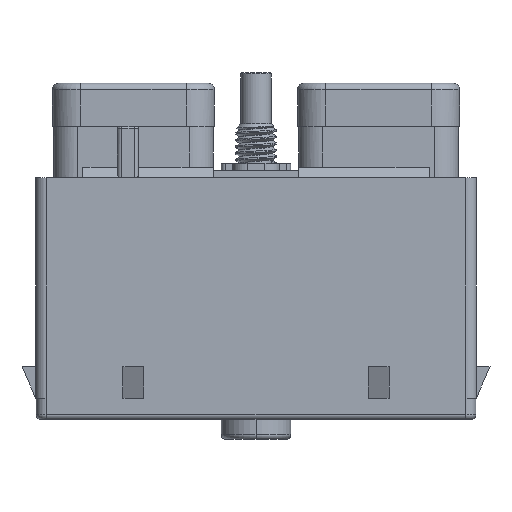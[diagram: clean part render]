
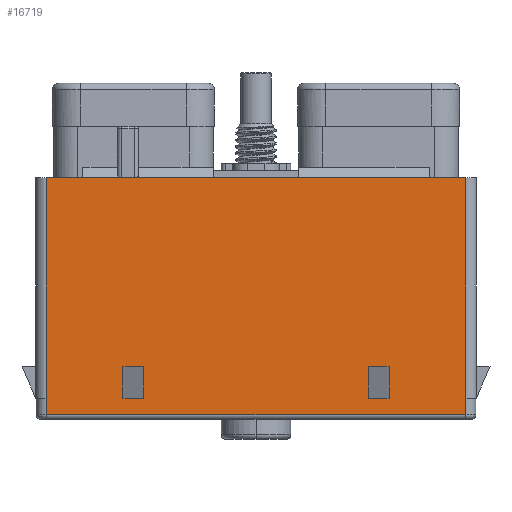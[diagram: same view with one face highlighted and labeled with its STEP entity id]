
A CAD part, front view. The second image highlights one B-rep face of the part: STEP entity #16719.
In plain terms, the highlighted planar face has unit normal (0, -1, 0).
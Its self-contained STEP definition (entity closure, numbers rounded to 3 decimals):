
#133=DIRECTION('',(0.,0.,1.));
#134=VECTOR('',#133,3.81);
#135=CARTESIAN_POINT('',(16.104,-14.58,-38.1));
#136=LINE('',#135,#134);
#137=DIRECTION('',(1.,0.,0.));
#138=VECTOR('',#137,2.54);
#139=CARTESIAN_POINT('',(13.564,-14.58,-34.29));
#140=LINE('',#139,#138);
#141=DIRECTION('',(0.,0.,1.));
#142=VECTOR('',#141,3.81);
#143=CARTESIAN_POINT('',(-13.564,-14.58,-38.1));
#144=LINE('',#143,#142);
#145=DIRECTION('',(1.,0.,0.));
#146=VECTOR('',#145,2.54);
#147=CARTESIAN_POINT('',(-16.104,-14.58,-34.29));
#148=LINE('',#147,#146);
#149=DIRECTION('',(-1.,0.,0.));
#150=VECTOR('',#149,50.648);
#151=CARTESIAN_POINT('',(25.324,-14.58,-40.132));
#152=LINE('',#151,#150);
#153=DIRECTION('',(0.,0.,1.));
#154=VECTOR('',#153,26.67);
#155=CARTESIAN_POINT('',(-25.4,-14.58,-38.1));
#156=LINE('',#155,#154);
#157=DIRECTION('',(0.,0.,-1.));
#158=VECTOR('',#157,26.67);
#159=CARTESIAN_POINT('',(25.4,-14.58,-11.43));
#160=LINE('',#159,#158);
#161=DIRECTION('',(0.,0.,-1.));
#162=VECTOR('',#161,2.032);
#163=CARTESIAN_POINT('',(25.324,-14.58,-38.1));
#164=LINE('',#163,#162);
#165=DIRECTION('',(0.,0.,1.));
#166=VECTOR('',#165,3.81);
#167=CARTESIAN_POINT('',(13.564,-14.58,-38.1));
#168=LINE('',#167,#166);
#197=DIRECTION('',(-1.,0.,0.));
#198=VECTOR('',#197,2.54);
#199=CARTESIAN_POINT('',(16.104,-14.58,-38.1));
#200=LINE('',#199,#198);
#205=DIRECTION('',(-1.,0.,0.));
#206=VECTOR('',#205,2.54);
#207=CARTESIAN_POINT('',(-13.564,-14.58,-38.1));
#208=LINE('',#207,#206);
#217=DIRECTION('',(0.,0.,1.));
#218=VECTOR('',#217,3.81);
#219=CARTESIAN_POINT('',(-16.104,-14.58,-38.1));
#220=LINE('',#219,#218);
#2697=DIRECTION('',(-1.,0.,0.));
#2698=VECTOR('',#2697,0.076);
#2699=CARTESIAN_POINT('',(25.4,-14.58,-38.1));
#2700=LINE('',#2699,#2698);
#2759=DIRECTION('',(1.,0.,0.));
#2760=VECTOR('',#2759,0.076);
#2761=CARTESIAN_POINT('',(-25.4,-14.58,-38.1));
#2762=LINE('',#2761,#2760);
#2915=DIRECTION('',(0.,0.,-1.));
#2916=VECTOR('',#2915,2.032);
#2917=CARTESIAN_POINT('',(-25.324,-14.58,-38.1));
#2918=LINE('',#2917,#2916);
#3039=DIRECTION('',(-1.,0.,0.));
#3040=VECTOR('',#3039,50.8);
#3041=CARTESIAN_POINT('',(25.4,-14.58,-11.43));
#3042=LINE('',#3041,#3040);
#13395=CARTESIAN_POINT('',(-25.4,-14.58,-11.43));
#13396=VERTEX_POINT('',#13395);
#13417=CARTESIAN_POINT('',(25.4,-14.58,-11.43));
#13418=VERTEX_POINT('',#13417);
#13595=CARTESIAN_POINT('',(25.4,-14.58,-38.1));
#13596=VERTEX_POINT('',#13595);
#13597=CARTESIAN_POINT('',(-25.4,-14.58,-38.1));
#13598=VERTEX_POINT('',#13597);
#13619=CARTESIAN_POINT('',(13.564,-14.58,-34.29));
#13621=VERTEX_POINT('',#13619);
#13623=CARTESIAN_POINT('',(-13.564,-14.58,-34.29));
#13625=VERTEX_POINT('',#13623);
#13627=CARTESIAN_POINT('',(16.104,-14.58,-34.29));
#13629=VERTEX_POINT('',#13627);
#13631=CARTESIAN_POINT('',(-16.104,-14.58,-34.29));
#13633=VERTEX_POINT('',#13631);
#14961=CARTESIAN_POINT('',(13.564,-14.58,-38.1));
#14962=VERTEX_POINT('',#14961);
#14963=CARTESIAN_POINT('',(-13.564,-14.58,-38.1));
#14964=VERTEX_POINT('',#14963);
#14965=CARTESIAN_POINT('',(16.104,-14.58,-38.1));
#14966=VERTEX_POINT('',#14965);
#14967=CARTESIAN_POINT('',(-16.104,-14.58,-38.1));
#14968=VERTEX_POINT('',#14967);
#15011=CARTESIAN_POINT('',(25.324,-14.58,-38.1));
#15012=VERTEX_POINT('',#15011);
#15013=CARTESIAN_POINT('',(-25.324,-14.58,-38.1));
#15014=VERTEX_POINT('',#15013);
#15127=CARTESIAN_POINT('',(25.324,-14.58,-40.132));
#15128=VERTEX_POINT('',#15127);
#15131=CARTESIAN_POINT('',(-25.324,-14.58,-40.132));
#15132=VERTEX_POINT('',#15131);
#16676=CARTESIAN_POINT('',(0.,-14.58,0.));
#16677=DIRECTION('',(0.,1.,0.));
#16678=DIRECTION('',(1.,0.,0.));
#16679=AXIS2_PLACEMENT_3D('',#16676,#16677,#16678);
#16680=PLANE('',#16679);
#16682=ORIENTED_EDGE('',*,*,#16681,.T.);
#16684=ORIENTED_EDGE('',*,*,#16683,.F.);
#16686=ORIENTED_EDGE('',*,*,#16685,.F.);
#16688=ORIENTED_EDGE('',*,*,#16687,.T.);
#16690=ORIENTED_EDGE('',*,*,#16689,.F.);
#16692=ORIENTED_EDGE('',*,*,#16691,.T.);
#16694=ORIENTED_EDGE('',*,*,#16693,.T.);
#16696=ORIENTED_EDGE('',*,*,#16695,.T.);
#16697=EDGE_LOOP('',(#16682,#16684,#16686,#16688,#16690,#16692,#16694,#16696));
#16698=FACE_OUTER_BOUND('',#16697,.F.);
#16700=ORIENTED_EDGE('',*,*,#16699,.F.);
#16702=ORIENTED_EDGE('',*,*,#16701,.F.);
#16704=ORIENTED_EDGE('',*,*,#16703,.T.);
#16706=ORIENTED_EDGE('',*,*,#16705,.F.);
#16707=EDGE_LOOP('',(#16700,#16702,#16704,#16706));
#16708=FACE_BOUND('',#16707,.F.);
#16710=ORIENTED_EDGE('',*,*,#16709,.F.);
#16712=ORIENTED_EDGE('',*,*,#16711,.F.);
#16714=ORIENTED_EDGE('',*,*,#16713,.T.);
#16716=ORIENTED_EDGE('',*,*,#16715,.F.);
#16717=EDGE_LOOP('',(#16710,#16712,#16714,#16716));
#16718=FACE_BOUND('',#16717,.F.);
#16719=ADVANCED_FACE('',(#16698,#16708,#16718),#16680,.F.);
#16681=EDGE_CURVE('',#15128,#15132,#152,.T.);
#16683=EDGE_CURVE('',#15014,#15132,#2918,.T.);
#16685=EDGE_CURVE('',#13598,#15014,#2762,.T.);
#16687=EDGE_CURVE('',#13598,#13396,#156,.T.);
#16689=EDGE_CURVE('',#13418,#13396,#3042,.T.);
#16691=EDGE_CURVE('',#13418,#13596,#160,.T.);
#16693=EDGE_CURVE('',#13596,#15012,#2700,.T.);
#16695=EDGE_CURVE('',#15012,#15128,#164,.T.);
#16699=EDGE_CURVE('',#14962,#13621,#168,.T.);
#16701=EDGE_CURVE('',#14966,#14962,#200,.T.);
#16703=EDGE_CURVE('',#14966,#13629,#136,.T.);
#16705=EDGE_CURVE('',#13621,#13629,#140,.T.);
#16709=EDGE_CURVE('',#14968,#13633,#220,.T.);
#16711=EDGE_CURVE('',#14964,#14968,#208,.T.);
#16713=EDGE_CURVE('',#14964,#13625,#144,.T.);
#16715=EDGE_CURVE('',#13633,#13625,#148,.T.);
